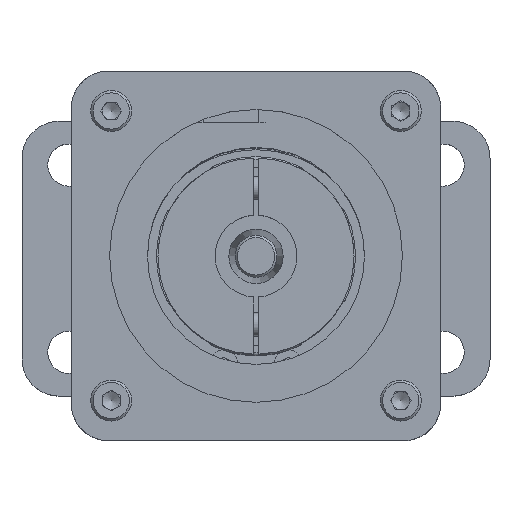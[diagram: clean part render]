
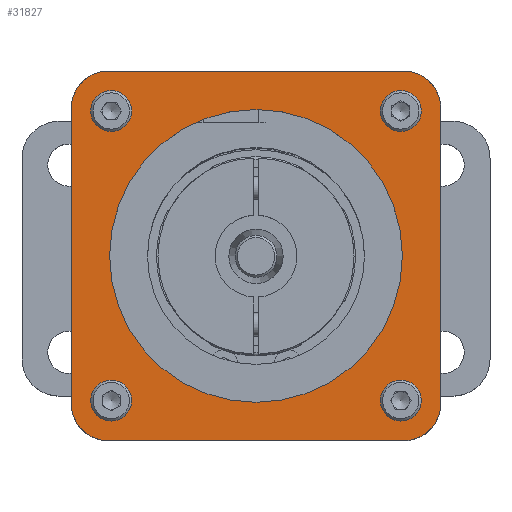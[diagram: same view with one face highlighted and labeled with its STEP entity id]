
A CAD part, top view. The second image highlights one B-rep face of the part: STEP entity #31827.
In plain terms, the highlighted planar face has unit normal (0, 0, 1).
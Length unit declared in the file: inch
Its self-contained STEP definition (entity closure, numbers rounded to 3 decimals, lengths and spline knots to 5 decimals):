
#278 = EDGE_CURVE ( 'NONE', #33872, #22488, #13638, .T. ) ;
#518 = DIRECTION ( 'NONE',  ( 0., 0., 1. ) ) ;
#692 = DIRECTION ( 'NONE',  ( 1., 0., 0. ) ) ;
#705 = ORIENTED_EDGE ( 'NONE', *, *, #7669, .T. ) ;
#791 = CARTESIAN_POINT ( 'NONE',  ( 1.2436, 0.9936, 3.7111 ) ) ;
#835 = EDGE_LOOP ( 'NONE', ( #32799 ) ) ;
#1285 = AXIS2_PLACEMENT_3D ( 'NONE', #34585, #12081, #17716 ) ;
#1370 = CARTESIAN_POINT ( 'NONE',  ( -0.97436, 0.97436, 3.7111 ) ) ;
#2634 = DIRECTION ( 'NONE',  ( 1., 0., 0. ) ) ;
#2658 = ORIENTED_EDGE ( 'NONE', *, *, #11622, .F. ) ;
#2675 = VERTEX_POINT ( 'NONE', #5408 ) ;
#2887 = VERTEX_POINT ( 'NONE', #23551 ) ;
#2927 = ORIENTED_EDGE ( 'NONE', *, *, #14894, .T. ) ;
#3297 = DIRECTION ( 'NONE',  ( -1., 0., 0. ) ) ;
#3994 = ORIENTED_EDGE ( 'NONE', *, *, #278, .T. ) ;
#4654 = CARTESIAN_POINT ( 'NONE',  ( -1.05311, -0.97436, 3.7111 ) ) ;
#5034 = VERTEX_POINT ( 'NONE', #32639 ) ;
#5408 = CARTESIAN_POINT ( 'NONE',  ( 0.9936, -1.2436, 3.7111 ) ) ;
#5557 = CARTESIAN_POINT ( 'NONE',  ( -0.9936, 0.9936, 3.7111 ) ) ;
#5888 = CARTESIAN_POINT ( 'NONE',  ( 0.9936, -0.9936, 3.7111 ) ) ;
#5950 = AXIS2_PLACEMENT_3D ( 'NONE', #27635, #518, #11623 ) ;
#6009 = CARTESIAN_POINT ( 'NONE',  ( -0.97436, -0.97436, 3.7111 ) ) ;
#6248 = DIRECTION ( 'NONE',  ( -1., 0., 0. ) ) ;
#6573 = CARTESIAN_POINT ( 'NONE',  ( -1.2436, 0.9936, 3.7111 ) ) ;
#6810 = EDGE_LOOP ( 'NONE', ( #27882, #25839, #705, #3994, #34799, #9924, #12770, #2927 ) ) ;
#7669 = EDGE_CURVE ( 'NONE', #19609, #33872, #29118, .T. ) ;
#7711 = CARTESIAN_POINT ( 'NONE',  ( -0.9936, -1.2436, 3.7111 ) ) ;
#7815 = VERTEX_POINT ( 'NONE', #13322 ) ;
#8260 = CARTESIAN_POINT ( 'NONE',  ( -0.9936, 1.2436, 3.7111 ) ) ;
#8461 = AXIS2_PLACEMENT_3D ( 'NONE', #1370, #12492, #23917 ) ;
#9924 = ORIENTED_EDGE ( 'NONE', *, *, #24031, .T. ) ;
#9956 = ORIENTED_EDGE ( 'NONE', *, *, #12413, .F. ) ;
#10321 = DIRECTION ( 'NONE',  ( 0., 0., 1. ) ) ;
#10424 = CARTESIAN_POINT ( 'NONE',  ( 0.97436, 0.97436, 3.7111 ) ) ;
#10599 = EDGE_CURVE ( 'NONE', #5034, #5034, #12355, .T. ) ;
#10946 = EDGE_CURVE ( 'NONE', #22488, #2675, #35713, .T. ) ;
#11622 = EDGE_CURVE ( 'NONE', #21029, #21029, #22754, .T. ) ;
#11623 = DIRECTION ( 'NONE',  ( 1., 0., 0. ) ) ;
#11725 = LINE ( 'NONE', #8260, #27587 ) ;
#11915 = AXIS2_PLACEMENT_3D ( 'NONE', #14526, #16419, #692 ) ;
#12081 = DIRECTION ( 'NONE',  ( 0., 0., 1. ) ) ;
#12116 = VERTEX_POINT ( 'NONE', #31889 ) ;
#12355 = CIRCLE ( 'NONE', #5950, 0.98525 ) ;
#12413 = EDGE_CURVE ( 'NONE', #24136, #24136, #25921, .T. ) ;
#12492 = DIRECTION ( 'NONE',  ( 0., 0., 1. ) ) ;
#12770 = ORIENTED_EDGE ( 'NONE', *, *, #26448, .T. ) ;
#13172 = AXIS2_PLACEMENT_3D ( 'NONE', #10424, #18596, #26960 ) ;
#13288 = EDGE_LOOP ( 'NONE', ( #31973 ) ) ;
#13322 = CARTESIAN_POINT ( 'NONE',  ( 1.2436, -0.9936, 3.7111 ) ) ;
#13638 = CIRCLE ( 'NONE', #19408, 0.25 ) ;
#13752 = DIRECTION ( 'NONE',  ( 0., 0., 1. ) ) ;
#14526 = CARTESIAN_POINT ( 'NONE',  ( 0.9936, 0.9936, 3.7111 ) ) ;
#14623 = LINE ( 'NONE', #791, #15195 ) ;
#14894 = EDGE_CURVE ( 'NONE', #18539, #2887, #31609, .T. ) ;
#15195 = VECTOR ( 'NONE', #34222, 39.37008 ) ;
#15221 = CARTESIAN_POINT ( 'NONE',  ( -0.9936, -0.9936, 3.7111 ) ) ;
#15863 = VECTOR ( 'NONE', #19364, 39.37008 ) ;
#16046 = CIRCLE ( 'NONE', #8461, 0.07875 ) ;
#16419 = DIRECTION ( 'NONE',  ( 0., 0., 1. ) ) ;
#16474 = FACE_BOUND ( 'NONE', #835, .T. ) ;
#16667 = CARTESIAN_POINT ( 'NONE',  ( 1.2436, 0.9936, 3.7111 ) ) ;
#17128 = DIRECTION ( 'NONE',  ( 0., 0., 1. ) ) ;
#17296 = CIRCLE ( 'NONE', #25403, 0.25 ) ;
#17716 = DIRECTION ( 'NONE',  ( 0., -1., 0. ) ) ;
#17778 = AXIS2_PLACEMENT_3D ( 'NONE', #5888, #28442, #25538 ) ;
#18454 = EDGE_CURVE ( 'NONE', #12116, #12116, #16046, .T. ) ;
#18489 = DIRECTION ( 'NONE',  ( 1., 0., 0. ) ) ;
#18539 = VERTEX_POINT ( 'NONE', #16667 ) ;
#18596 = DIRECTION ( 'NONE',  ( 0., 0., 1. ) ) ;
#18640 = FACE_BOUND ( 'NONE', #30978, .T. ) ;
#18654 = DIRECTION ( 'NONE',  ( 0., 0., 1. ) ) ;
#18957 = CIRCLE ( 'NONE', #17778, 0.25 ) ;
#19020 = CARTESIAN_POINT ( 'NONE',  ( -1.77594, 1.6875, 3.7111 ) ) ;
#19266 = EDGE_LOOP ( 'NONE', ( #2658 ) ) ;
#19364 = DIRECTION ( 'NONE',  ( 1., 0., 0. ) ) ;
#19408 = AXIS2_PLACEMENT_3D ( 'NONE', #15221, #18654, #18489 ) ;
#19609 = VERTEX_POINT ( 'NONE', #30137 ) ;
#20907 = EDGE_CURVE ( 'NONE', #21451, #19609, #17296, .T. ) ;
#21029 = VERTEX_POINT ( 'NONE', #4654 ) ;
#21451 = VERTEX_POINT ( 'NONE', #25235 ) ;
#21686 = ORIENTED_EDGE ( 'NONE', *, *, #18454, .F. ) ;
#22488 = VERTEX_POINT ( 'NONE', #23012 ) ;
#22754 = CIRCLE ( 'NONE', #28562, 0.07875 ) ;
#23012 = CARTESIAN_POINT ( 'NONE',  ( -0.9936, -1.2436, 3.7111 ) ) ;
#23551 = CARTESIAN_POINT ( 'NONE',  ( 0.9936, 1.2436, 3.7111 ) ) ;
#23917 = DIRECTION ( 'NONE',  ( 0., 1., 0. ) ) ;
#24031 = EDGE_CURVE ( 'NONE', #2675, #7815, #18957, .T. ) ;
#24136 = VERTEX_POINT ( 'NONE', #35208 ) ;
#24530 = CIRCLE ( 'NONE', #1285, 0.07875 ) ;
#24634 = FACE_BOUND ( 'NONE', #27744, .T. ) ;
#24825 = FACE_BOUND ( 'NONE', #19266, .T. ) ;
#25120 = CARTESIAN_POINT ( 'NONE',  ( 0.97436, -1.05311, 3.7111 ) ) ;
#25235 = CARTESIAN_POINT ( 'NONE',  ( -0.9936, 1.2436, 3.7111 ) ) ;
#25403 = AXIS2_PLACEMENT_3D ( 'NONE', #5557, #10321, #29940 ) ;
#25538 = DIRECTION ( 'NONE',  ( 1., 0., 0. ) ) ;
#25839 = ORIENTED_EDGE ( 'NONE', *, *, #20907, .T. ) ;
#25921 = CIRCLE ( 'NONE', #13172, 0.07875 ) ;
#26448 = EDGE_CURVE ( 'NONE', #7815, #18539, #14623, .T. ) ;
#26807 = CARTESIAN_POINT ( 'NONE',  ( -1.2436, -0.9936, 3.7111 ) ) ;
#26960 = DIRECTION ( 'NONE',  ( 1., 0., 0. ) ) ;
#26965 = VECTOR ( 'NONE', #34573, 39.37008 ) ;
#27558 = PLANE ( 'NONE',  #33376 ) ;
#27587 = VECTOR ( 'NONE', #6248, 39.37008 ) ;
#27635 = CARTESIAN_POINT ( 'NONE',  ( 0., 0., 3.7111 ) ) ;
#27744 = EDGE_LOOP ( 'NONE', ( #21686 ) ) ;
#27882 = ORIENTED_EDGE ( 'NONE', *, *, #31983, .T. ) ;
#28442 = DIRECTION ( 'NONE',  ( 0., 0., 1. ) ) ;
#28562 = AXIS2_PLACEMENT_3D ( 'NONE', #6009, #17128, #3297 ) ;
#29118 = LINE ( 'NONE', #6573, #26965 ) ;
#29940 = DIRECTION ( 'NONE',  ( 1., 0., 0. ) ) ;
#30137 = CARTESIAN_POINT ( 'NONE',  ( -1.2436, 0.9936, 3.7111 ) ) ;
#30220 = VERTEX_POINT ( 'NONE', #25120 ) ;
#30978 = EDGE_LOOP ( 'NONE', ( #9956 ) ) ;
#31609 = CIRCLE ( 'NONE', #11915, 0.25 ) ;
#31827 = ADVANCED_FACE ( 'NONE', ( #16474, #24825, #24634, #18640, #35717, #32809 ), #27558, .T. ) ;
#31889 = CARTESIAN_POINT ( 'NONE',  ( -0.97436, 1.05311, 3.7111 ) ) ;
#31973 = ORIENTED_EDGE ( 'NONE', *, *, #10599, .F. ) ;
#31983 = EDGE_CURVE ( 'NONE', #2887, #21451, #11725, .T. ) ;
#32639 = CARTESIAN_POINT ( 'NONE',  ( 0.98525, 0., 3.7111 ) ) ;
#32799 = ORIENTED_EDGE ( 'NONE', *, *, #34559, .F. ) ;
#32809 = FACE_OUTER_BOUND ( 'NONE', #6810, .T. ) ;
#33376 = AXIS2_PLACEMENT_3D ( 'NONE', #19020, #13752, #2634 ) ;
#33872 = VERTEX_POINT ( 'NONE', #26807 ) ;
#34222 = DIRECTION ( 'NONE',  ( 0., 1., 0. ) ) ;
#34559 = EDGE_CURVE ( 'NONE', #30220, #30220, #24530, .T. ) ;
#34573 = DIRECTION ( 'NONE',  ( 0., -1., 0. ) ) ;
#34585 = CARTESIAN_POINT ( 'NONE',  ( 0.97436, -0.97436, 3.7111 ) ) ;
#34799 = ORIENTED_EDGE ( 'NONE', *, *, #10946, .T. ) ;
#35208 = CARTESIAN_POINT ( 'NONE',  ( 1.05311, 0.97436, 3.7111 ) ) ;
#35713 = LINE ( 'NONE', #7711, #15863 ) ;
#35717 = FACE_BOUND ( 'NONE', #13288, .T. ) ;
